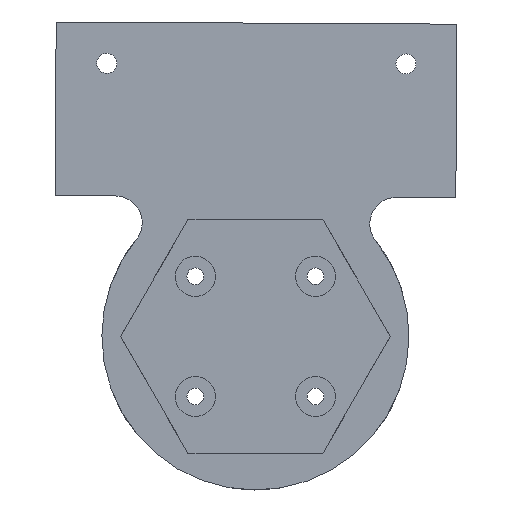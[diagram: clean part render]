
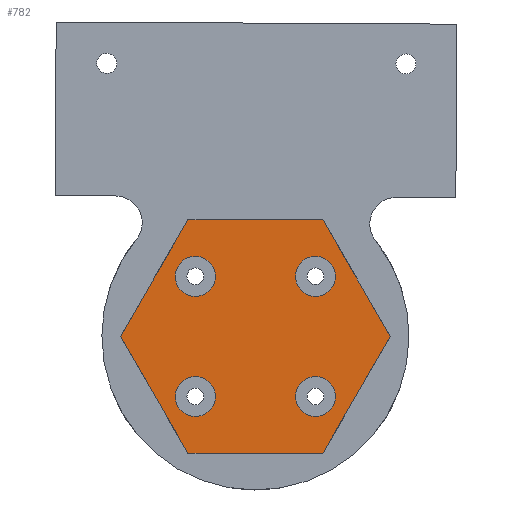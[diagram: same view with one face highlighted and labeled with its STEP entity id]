
A CAD part, front view. The second image highlights one B-rep face of the part: STEP entity #782.
In plain terms, the highlighted planar face has unit normal (0, -1, 0) as drawn and (0, 0, 1) by its records, which use the part's own axes.
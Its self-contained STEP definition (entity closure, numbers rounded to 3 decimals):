
#33 = ORIENTED_EDGE ( 'NONE', *, *, #998, .T. ) ;
#91 = EDGE_LOOP ( 'NONE', ( #890, #996 ) ) ;
#94 = ORIENTED_EDGE ( 'NONE', *, *, #644, .T. ) ;
#113 = CARTESIAN_POINT ( 'NONE',  ( -12.048, 8.952, 24. ) ) ;
#181 = DIRECTION ( 'NONE',  ( 0., 0., 1. ) ) ;
#199 = EDGE_LOOP ( 'NONE', ( #1841, #1018 ) ) ;
#244 = CARTESIAN_POINT ( 'NONE',  ( -9.048, 8.952, 24. ) ) ;
#260 = ORIENTED_EDGE ( 'NONE', *, *, #1875, .T. ) ;
#264 = AXIS2_PLACEMENT_3D ( 'NONE', #244, #861, #721 ) ;
#280 = DIRECTION ( 'NONE',  ( 1., 0., 0. ) ) ;
#286 = VERTEX_POINT ( 'NONE', #1686 ) ;
#298 = EDGE_CURVE ( 'NONE', #1327, #1708, #1240, .T. ) ;
#300 = FACE_BOUND ( 'NONE', #1748, .T. ) ;
#307 = AXIS2_PLACEMENT_3D ( 'NONE', #1160, #1917, #814 ) ;
#311 = VECTOR ( 'NONE', #1913, 1000. ) ;
#365 = LINE ( 'NONE', #1768, #1800 ) ;
#382 = DIRECTION ( 'NONE',  ( 0.495, 0.869, 0. ) ) ;
#410 = DIRECTION ( 'NONE',  ( 0., 0., 1. ) ) ;
#420 = CARTESIAN_POINT ( 'NONE',  ( -10.01, -17.554, 24. ) ) ;
#426 = DIRECTION ( 'NONE',  ( 0., 0., 1. ) ) ;
#470 = AXIS2_PLACEMENT_3D ( 'NONE', #938, #181, #1909 ) ;
#488 = CARTESIAN_POINT ( 'NONE',  ( -6.048, 8.952, 24. ) ) ;
#515 = VERTEX_POINT ( 'NONE', #420 ) ;
#518 = PLANE ( 'NONE',  #307 ) ;
#527 = AXIS2_PLACEMENT_3D ( 'NONE', #1939, #994, #1602 ) ;
#535 = FACE_BOUND ( 'NONE', #1851, .T. ) ;
#609 = DIRECTION ( 'NONE',  ( 1., 0., 0. ) ) ;
#623 = DIRECTION ( 'NONE',  ( 1., 0.005, 0. ) ) ;
#637 = CARTESIAN_POINT ( 'NONE',  ( -10.01, -17.554, 24. ) ) ;
#644 = EDGE_CURVE ( 'NONE', #940, #706, #1173, .T. ) ;
#647 = EDGE_CURVE ( 'NONE', #1464, #655, #1706, .T. ) ;
#654 = CARTESIAN_POINT ( 'NONE',  ( -10.197, 17.446, 24. ) ) ;
#655 = VERTEX_POINT ( 'NONE', #113 ) ;
#674 = VERTEX_POINT ( 'NONE', #1049 ) ;
#687 = VECTOR ( 'NONE', #732, 1000. ) ;
#702 = CARTESIAN_POINT ( 'NONE',  ( -20.207, -0.108, 24. ) ) ;
#703 = EDGE_LOOP ( 'NONE', ( #260, #1034, #94, #33, #1657, #1623 ) ) ;
#706 = VERTEX_POINT ( 'NONE', #1508 ) ;
#721 = DIRECTION ( 'NONE',  ( 1., 0., 0. ) ) ;
#726 = VECTOR ( 'NONE', #623, 1000. ) ;
#732 = DIRECTION ( 'NONE',  ( 0.505, -0.863, 0. ) ) ;
#752 = AXIS2_PLACEMENT_3D ( 'NONE', #1032, #410, #609 ) ;
#775 = VERTEX_POINT ( 'NONE', #1572 ) ;
#782 = ADVANCED_FACE ( 'NONE', ( #300, #1554, #926, #535, #1947 ), #518, .T. ) ;
#785 = ORIENTED_EDGE ( 'NONE', *, *, #1601, .F. ) ;
#806 = EDGE_CURVE ( 'NONE', #1708, #1327, #1548, .T. ) ;
#814 = DIRECTION ( 'NONE',  ( 1., 0., 0. ) ) ;
#861 = DIRECTION ( 'NONE',  ( 0., 0., 1. ) ) ;
#869 = DIRECTION ( 'NONE',  ( 0., 0., 1. ) ) ;
#880 = CARTESIAN_POINT ( 'NONE',  ( -8.952, -9.048, 24. ) ) ;
#890 = ORIENTED_EDGE ( 'NONE', *, *, #806, .F. ) ;
#926 = FACE_BOUND ( 'NONE', #199, .T. ) ;
#938 = CARTESIAN_POINT ( 'NONE',  ( 9.048, -8.952, 24. ) ) ;
#940 = VERTEX_POINT ( 'NONE', #1337 ) ;
#957 = LINE ( 'NONE', #654, #311 ) ;
#994 = DIRECTION ( 'NONE',  ( 0., 0., 1. ) ) ;
#996 = ORIENTED_EDGE ( 'NONE', *, *, #298, .F. ) ;
#998 = EDGE_CURVE ( 'NONE', #706, #1903, #365, .T. ) ;
#1018 = ORIENTED_EDGE ( 'NONE', *, *, #1065, .F. ) ;
#1019 = LINE ( 'NONE', #702, #687 ) ;
#1028 = EDGE_CURVE ( 'NONE', #1690, #940, #1778, .T. ) ;
#1032 = CARTESIAN_POINT ( 'NONE',  ( 8.952, 9.048, 24. ) ) ;
#1034 = ORIENTED_EDGE ( 'NONE', *, *, #1028, .T. ) ;
#1049 = CARTESIAN_POINT ( 'NONE',  ( -5.952, -9.048, 24. ) ) ;
#1065 = EDGE_CURVE ( 'NONE', #655, #1464, #1308, .T. ) ;
#1116 = AXIS2_PLACEMENT_3D ( 'NONE', #1772, #1761, #1148 ) ;
#1131 = VERTEX_POINT ( 'NONE', #1400 ) ;
#1148 = DIRECTION ( 'NONE',  ( 1., 0., 0. ) ) ;
#1151 = AXIS2_PLACEMENT_3D ( 'NONE', #1830, #869, #1507 ) ;
#1160 = CARTESIAN_POINT ( 'NONE',  ( 0., 0., 24. ) ) ;
#1173 = LINE ( 'NONE', #1655, #1375 ) ;
#1193 = ORIENTED_EDGE ( 'NONE', *, *, #1871, .F. ) ;
#1197 = CARTESIAN_POINT ( 'NONE',  ( 5.952, 9.048, 24. ) ) ;
#1240 = CIRCLE ( 'NONE', #752, 3. ) ;
#1263 = LINE ( 'NONE', #637, #726 ) ;
#1290 = CARTESIAN_POINT ( 'NONE',  ( 10.197, -17.446, 24. ) ) ;
#1295 = DIRECTION ( 'NONE',  ( 0., 0., 1. ) ) ;
#1303 = VERTEX_POINT ( 'NONE', #1977 ) ;
#1308 = CIRCLE ( 'NONE', #527, 3. ) ;
#1309 = CIRCLE ( 'NONE', #1151, 3. ) ;
#1327 = VERTEX_POINT ( 'NONE', #1197 ) ;
#1335 = EDGE_CURVE ( 'NONE', #286, #515, #1019, .T. ) ;
#1337 = CARTESIAN_POINT ( 'NONE',  ( 20.207, 0.108, 24. ) ) ;
#1350 = DIRECTION ( 'NONE',  ( -0.505, 0.863, 0. ) ) ;
#1375 = VECTOR ( 'NONE', #1350, 1000. ) ;
#1400 = CARTESIAN_POINT ( 'NONE',  ( 12.048, -8.952, 24. ) ) ;
#1408 = ORIENTED_EDGE ( 'NONE', *, *, #1528, .F. ) ;
#1416 = AXIS2_PLACEMENT_3D ( 'NONE', #880, #426, #280 ) ;
#1443 = DIRECTION ( 'NONE',  ( -1., -0.005, 0. ) ) ;
#1455 = CARTESIAN_POINT ( 'NONE',  ( 10.197, -17.446, 24. ) ) ;
#1464 = VERTEX_POINT ( 'NONE', #488 ) ;
#1507 = DIRECTION ( 'NONE',  ( 1., 0., 0. ) ) ;
#1508 = CARTESIAN_POINT ( 'NONE',  ( 10.01, 17.554, 24. ) ) ;
#1510 = EDGE_CURVE ( 'NONE', #674, #1303, #1309, .T. ) ;
#1528 = EDGE_CURVE ( 'NONE', #1303, #674, #1941, .T. ) ;
#1545 = CARTESIAN_POINT ( 'NONE',  ( 11.952, 9.048, 24. ) ) ;
#1548 = CIRCLE ( 'NONE', #1767, 3. ) ;
#1551 = VECTOR ( 'NONE', #382, 1000. ) ;
#1554 = FACE_BOUND ( 'NONE', #91, .T. ) ;
#1558 = CIRCLE ( 'NONE', #470, 3. ) ;
#1572 = CARTESIAN_POINT ( 'NONE',  ( 6.048, -8.952, 24. ) ) ;
#1598 = CARTESIAN_POINT ( 'NONE',  ( 8.952, 9.048, 24. ) ) ;
#1601 = EDGE_CURVE ( 'NONE', #775, #1131, #1972, .T. ) ;
#1602 = DIRECTION ( 'NONE',  ( 1., 0., 0. ) ) ;
#1623 = ORIENTED_EDGE ( 'NONE', *, *, #1335, .T. ) ;
#1655 = CARTESIAN_POINT ( 'NONE',  ( 20.207, 0.108, 24. ) ) ;
#1657 = ORIENTED_EDGE ( 'NONE', *, *, #1662, .T. ) ;
#1662 = EDGE_CURVE ( 'NONE', #1903, #286, #957, .T. ) ;
#1686 = CARTESIAN_POINT ( 'NONE',  ( -20.207, -0.108, 24. ) ) ;
#1690 = VERTEX_POINT ( 'NONE', #1290 ) ;
#1706 = CIRCLE ( 'NONE', #264, 3. ) ;
#1708 = VERTEX_POINT ( 'NONE', #1545 ) ;
#1748 = EDGE_LOOP ( 'NONE', ( #1193, #785 ) ) ;
#1761 = DIRECTION ( 'NONE',  ( 0., 0., 1. ) ) ;
#1765 = DIRECTION ( 'NONE',  ( 1., 0., 0. ) ) ;
#1767 = AXIS2_PLACEMENT_3D ( 'NONE', #1598, #1295, #1765 ) ;
#1768 = CARTESIAN_POINT ( 'NONE',  ( 10.01, 17.554, 24. ) ) ;
#1772 = CARTESIAN_POINT ( 'NONE',  ( 9.048, -8.952, 24. ) ) ;
#1773 = ORIENTED_EDGE ( 'NONE', *, *, #1510, .F. ) ;
#1778 = LINE ( 'NONE', #1455, #1551 ) ;
#1800 = VECTOR ( 'NONE', #1443, 1000. ) ;
#1830 = CARTESIAN_POINT ( 'NONE',  ( -8.952, -9.048, 24. ) ) ;
#1841 = ORIENTED_EDGE ( 'NONE', *, *, #647, .F. ) ;
#1851 = EDGE_LOOP ( 'NONE', ( #1773, #1408 ) ) ;
#1871 = EDGE_CURVE ( 'NONE', #1131, #775, #1558, .T. ) ;
#1875 = EDGE_CURVE ( 'NONE', #515, #1690, #1263, .T. ) ;
#1895 = CARTESIAN_POINT ( 'NONE',  ( -10.197, 17.446, 24. ) ) ;
#1903 = VERTEX_POINT ( 'NONE', #1895 ) ;
#1909 = DIRECTION ( 'NONE',  ( 1., 0., 0. ) ) ;
#1913 = DIRECTION ( 'NONE',  ( -0.495, -0.869, 0. ) ) ;
#1917 = DIRECTION ( 'NONE',  ( 0., 0., 1. ) ) ;
#1939 = CARTESIAN_POINT ( 'NONE',  ( -9.048, 8.952, 24. ) ) ;
#1941 = CIRCLE ( 'NONE', #1416, 3. ) ;
#1947 = FACE_OUTER_BOUND ( 'NONE', #703, .T. ) ;
#1972 = CIRCLE ( 'NONE', #1116, 3. ) ;
#1977 = CARTESIAN_POINT ( 'NONE',  ( -11.952, -9.048, 24. ) ) ;
